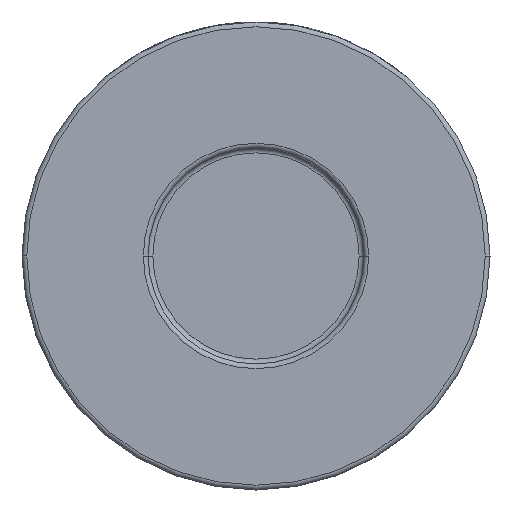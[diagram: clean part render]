
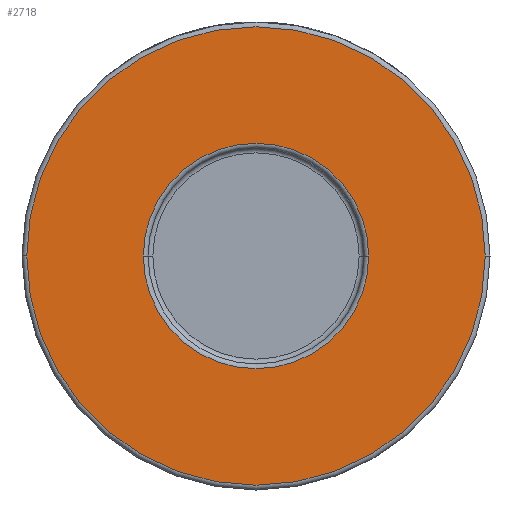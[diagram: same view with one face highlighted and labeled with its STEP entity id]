
A CAD part, front view. The second image highlights one B-rep face of the part: STEP entity #2718.
In plain terms, the highlighted planar face has unit normal (0, -1, 0).
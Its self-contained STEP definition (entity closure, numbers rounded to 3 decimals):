
#253 = VERTEX_POINT ( 'NONE', #4603 ) ;
#385 = ORIENTED_EDGE ( 'NONE', *, *, #3891, .T. ) ;
#425 = EDGE_LOOP ( 'NONE', ( #1191, #385 ) ) ;
#484 = VERTEX_POINT ( 'NONE', #4403 ) ;
#495 = AXIS2_PLACEMENT_3D ( 'NONE', #3430, #541, #4200 ) ;
#541 = DIRECTION ( 'NONE',  ( 0., 1., 0. ) ) ;
#699 = CIRCLE ( 'NONE', #1616, 48. ) ;
#851 = AXIS2_PLACEMENT_3D ( 'NONE', #3863, #4244, #4222 ) ;
#917 = ORIENTED_EDGE ( 'NONE', *, *, #2236, .T. ) ;
#1015 = EDGE_CURVE ( 'NONE', #4102, #484, #1019, .T. ) ;
#1019 = CIRCLE ( 'NONE', #495, 23.6 ) ;
#1103 = DIRECTION ( 'NONE',  ( 1., 0., 0. ) ) ;
#1124 = FACE_BOUND ( 'NONE', #425, .T. ) ;
#1131 = AXIS2_PLACEMENT_3D ( 'NONE', #1281, #2899, #2496 ) ;
#1191 = ORIENTED_EDGE ( 'NONE', *, *, #1015, .T. ) ;
#1281 = CARTESIAN_POINT ( 'NONE',  ( 0., -30., 0. ) ) ;
#1332 = EDGE_LOOP ( 'NONE', ( #917, #1622 ) ) ;
#1616 = AXIS2_PLACEMENT_3D ( 'NONE', #1836, #4352, #2195 ) ;
#1622 = ORIENTED_EDGE ( 'NONE', *, *, #3431, .T. ) ;
#1820 = CARTESIAN_POINT ( 'NONE',  ( 49., -30., 0. ) ) ;
#1836 = CARTESIAN_POINT ( 'NONE',  ( 0., -30., 0. ) ) ;
#1840 = CIRCLE ( 'NONE', #851, 23.6 ) ;
#1892 = FACE_OUTER_BOUND ( 'NONE', #1332, .T. ) ;
#2195 = DIRECTION ( 'NONE',  ( 1., 0., 0. ) ) ;
#2236 = EDGE_CURVE ( 'NONE', #3176, #253, #2584, .T. ) ;
#2496 = DIRECTION ( 'NONE',  ( 1., 0., 0. ) ) ;
#2584 = CIRCLE ( 'NONE', #1131, 48. ) ;
#2718 = ADVANCED_FACE ( 'NONE', ( #1124, #1892 ), #3346, .T. ) ;
#2899 = DIRECTION ( 'NONE',  ( 0., -1., 0. ) ) ;
#3176 = VERTEX_POINT ( 'NONE', #4589 ) ;
#3346 = PLANE ( 'NONE',  #4584 ) ;
#3430 = CARTESIAN_POINT ( 'NONE',  ( 0., -30., 0. ) ) ;
#3431 = EDGE_CURVE ( 'NONE', #253, #3176, #699, .T. ) ;
#3765 = CARTESIAN_POINT ( 'NONE',  ( 23.6, -30., 0. ) ) ;
#3863 = CARTESIAN_POINT ( 'NONE',  ( 0., -30., 0. ) ) ;
#3891 = EDGE_CURVE ( 'NONE', #484, #4102, #1840, .T. ) ;
#4102 = VERTEX_POINT ( 'NONE', #3765 ) ;
#4200 = DIRECTION ( 'NONE',  ( 1., 0., 0. ) ) ;
#4222 = DIRECTION ( 'NONE',  ( 1., 0., 0. ) ) ;
#4244 = DIRECTION ( 'NONE',  ( 0., 1., 0. ) ) ;
#4352 = DIRECTION ( 'NONE',  ( 0., -1., 0. ) ) ;
#4381 = DIRECTION ( 'NONE',  ( 0., -1., 0. ) ) ;
#4403 = CARTESIAN_POINT ( 'NONE',  ( -23.6, -30., 0. ) ) ;
#4584 = AXIS2_PLACEMENT_3D ( 'NONE', #1820, #4381, #1103 ) ;
#4589 = CARTESIAN_POINT ( 'NONE',  ( 48., -30., 0. ) ) ;
#4603 = CARTESIAN_POINT ( 'NONE',  ( -48., -30., 0. ) ) ;
